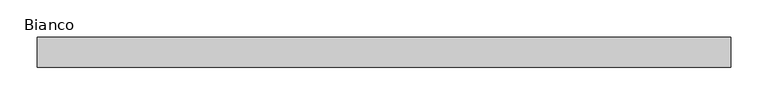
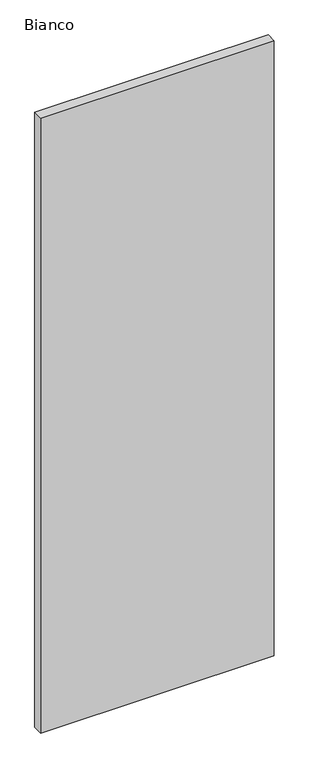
"""IFC4 building model written with IfcOpenShell, lengths in millimetres: plate geometry, Lod 200 Regolare 800 Vertical : Bianco."""

from ifc_helpers import new_model, si_unit, origin, origin_with_axes, place, context, project, spatial, polyline, outline, extrude, source, transform, mapped, element, save


def bianco_1e1d6290(model_context):
    return source(origin(), model_context, "Body", "SweptSolid", [
        extrude(outline(polyline([(465.0, 40.0), (465.0, 0.0), (-465.0, 0.0), (-465.0, 40.0), (465.0, 40.0)])), origin_with_axes(), (0.0, 0.0, 1.0), 2588.190451),
    ])


if __name__ == "__main__":
    model = new_model("IFC4")
    model_context = context("Model", 3, world=origin())
    ifc_project = project(units=[si_unit("LENGTHUNIT", "METRE", prefix="MILLI")], contexts=[model_context])
    site = spatial("IfcSite", under=ifc_project)
    building = spatial("IfcBuilding", under=site)
    placement = place(None, origin())
    bianco_shape = bianco_1e1d6290(model_context)
    element("IfcPlate", 1, ObjectType="Lod 200 Regolare 800 Vertical : Bianco", at=placement, inside=building, context=model_context, shape_type="MappedRepresentation", body=[
        mapped(bianco_shape, transform((0.0, 0.0, 0.0), x_axis=(1.0, 0.0, 0.0), y_axis=(0.0, 1.0, 0.0), z_axis=(0.0, 0.0, 1.0))),
    ])
    save(model, "model.ifc")
